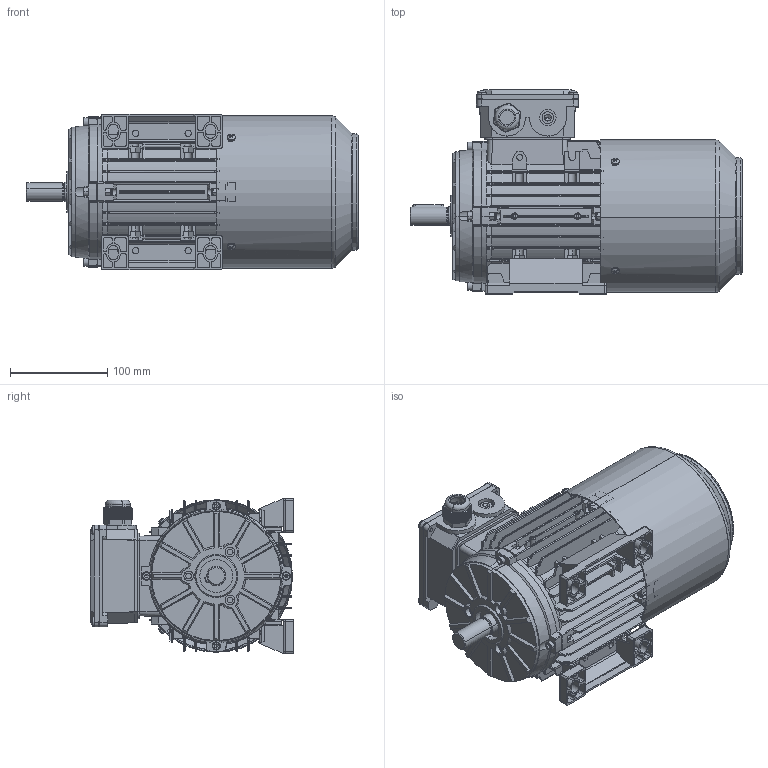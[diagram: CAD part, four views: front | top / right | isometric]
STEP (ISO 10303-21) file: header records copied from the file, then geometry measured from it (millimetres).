
FILE_DESCRIPTION (( 'STEP AP203' ), '1' );
FILE_NAME ('TB80 B3（风罩不带手柄孔）.STEP', '2021-10-21T02:49:28', ( '' ), ( '' ), 'SwSTEP 2.0', 'SolidWorks 2014', '' );
FILE_SCHEMA (( 'CONFIG_CONTROL_DESIGN' ));
Length unit declared in the file: millimetre
Products named in the file (16): Hexagon nuts grade C GB_GB_FASTENER_NUT_SNC1 M5-N; TB80瑞欶ㄗ祥湍忒梟謂ㄘ; Plain parallel keys_GB_CONNECTING_PIECE_KEYS_CSK 6X32; T80菁褐; 80-100堤盄蹟杶; TA80ヶ傷裔1; Cross recessed thread forming screws GB_GB_CROSS_SCREWS_TYPE138 M5X12-N; TB80綴傷裔1; 陔諉盄碟釱80-100; TB80 B3（风罩不带手柄孔）; Hexagon socket head cap screws GB_GB_FASTENER_SCREWS_HSHCS M5X25-N; TB80蛌粣; Cross recessed thread forming screws GB_GB_CROSS_SCREWS_TYPE138 M4X12-N; 80怢宒瑞珔; T80儂褲; 陔諉盄碟裔80-100
Assembly tree (36 placements, depth 2):
  TB80 B3（风罩不带手柄孔）
    T80儂褲
    80-100堤盄蹟杶
    Hexagon socket head cap screws GB_GB_FASTENER_SCREWS_HSHCS M5X25-N  x8
    Hexagon nuts grade C GB_GB_FASTENER_NUT_SNC1 M5-N  x8
    Cross recessed thread forming screws GB_GB_CROSS_SCREWS_TYPE138 M5X12-N  x4
    Cross recessed thread forming screws GB_GB_CROSS_SCREWS_TYPE138 M4X12-N  x4
    Plain parallel keys_GB_CONNECTING_PIECE_KEYS_CSK 6X32
    陔諉盄碟釱80-100
    陔諉盄碟裔80-100
    TA80ヶ傷裔1
    TB80蛌粣
    TB80瑞欶ㄗ祥湍忒梟謂ㄘ
    TB80綴傷裔1
    80怢宒瑞珔
    T80菁褐  x2
Bounding box: 342 x 210 x 160 mm (x, y, z)
Volume: 979119.9 mm3; surface area: 712057.8 mm2
Topology: 36 solids, 36 shells, 4064 faces, 10644 edges, 6718 vertices
Faces by surface type: plane 2142, cylinder 1096, cone 293, bspline 238, torus 183, sphere 112
Entity records: 118725 total; most frequent: CARTESIAN_POINT 32339, ORIENTED_EDGE 18358, DIRECTION 16570, EDGE_CURVE 9179, VERTEX_POINT 5829, AXIS2_PLACEMENT_3D 5723, LINE 5124, VECTOR 5124
